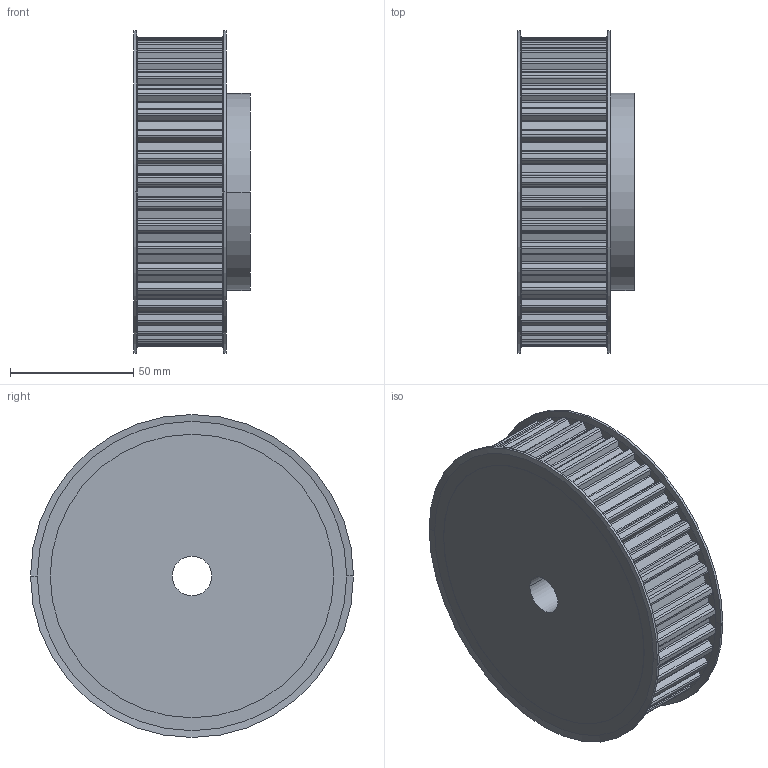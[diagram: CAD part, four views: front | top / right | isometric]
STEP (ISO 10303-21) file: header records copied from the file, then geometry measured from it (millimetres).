
FILE_DESCRIPTION( ( '' ), '1' );
FILE_NAME( 'C:/Users/Stangenbergd/Documents/CAD_Step/1/16444000.stp', '2021-10-19T08:57:48', ( '' ), ( '' ), ' ', ' ', ' ' );
FILE_SCHEMA( ( 'CONFIG_CONTROL_DESIGN' ) );
Length unit declared in the file: millimetre
Products named in the file (1): 1
Bounding box: 47.24 x 131 x 131 mm (x, y, z)
Volume: 474568.8 mm3; surface area: 55448.2 mm2
Topology: 1 solids, 1 shells, 347 faces, 1012 edges, 672 vertices
Faces by surface type: cylinder 212, plane 127, cone 8
Entity records: 11702 total; most frequent: DIRECTION 2140, CARTESIAN_POINT 2032, ORIENTED_EDGE 2024, EDGE_CURVE 1012, AXIS2_PLACEMENT_3D 780, VERTEX_POINT 672, LINE 580, VECTOR 580
